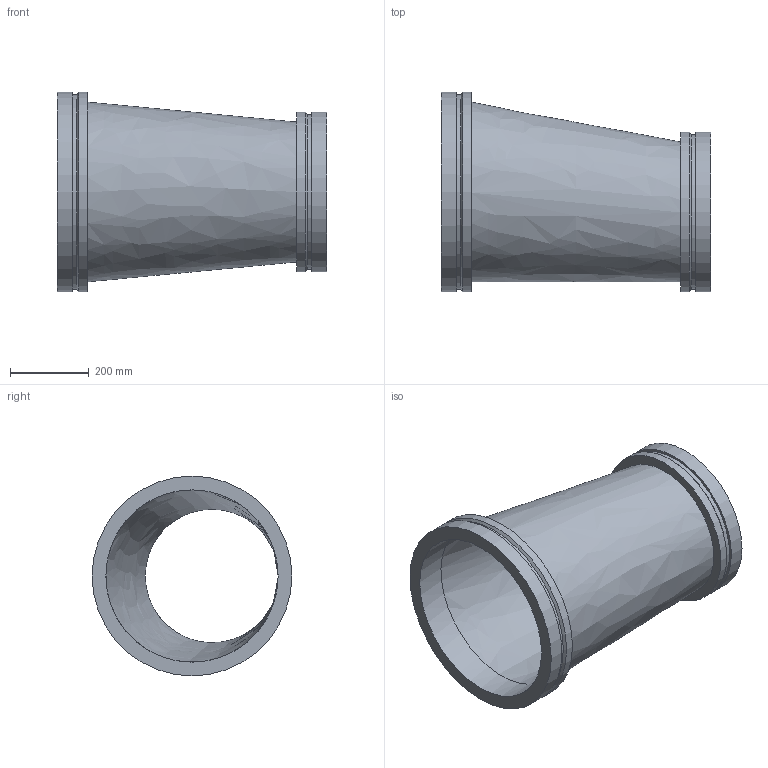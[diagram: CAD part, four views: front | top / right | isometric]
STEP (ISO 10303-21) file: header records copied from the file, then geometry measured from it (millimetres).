
FILE_DESCRIPTION(/* description */ ('VIC REDUCER ECCENTRIC No W51-VR','CAx-IF Rec.Pracs.---Representation and Presentation of Product Manufacturing Information (PMI)---4.0---2014-10-13'),/* implementation_level */ '2;1');
FILE_NAME(/* name */ 'C:\Users\kkamble\AppData\Roaming\Autodesk\ApplicationPlugins\Back Up\Victaulic_Vic-Ring_Reducer Eccentric_No W51 VR (AGR)\Victaulic_Vic-Ring_Reducer Eccentric_No W51 VR (AGR)_18.0x14.0 (450x350).stp',/* time_stamp */ '2020-09-10T11:48:54+05:00',/* author */ ('CONSTRUCTION PIPING SERVICES'),/* organization */ ('Victaulic'),/* preprocessor_version */ 'ST-DEVELOPER v17.2',/* originating_system */ 'Autodesk Inventor 2019',/* authorisation */ '');
FILE_SCHEMA (('AP242_MANAGED_MODEL_BASED_3D_ENGINEERING_MIM_LF { 1 0 10303 442 1 1 4 }'));
Length unit declared in the file: inch
Products named in the file (1): W51 VR-18.0x14.0
Bounding box: 685.8 x 508 x 508 mm (x, y, z)
Volume: 12546353.3 mm3; surface area: 1931826.5 mm2
Topology: 1 solids, 1 shells, 18 faces, 52 edges, 40 vertices
Faces by surface type: cylinder 8, plane 6, cone 2, bspline 2
Full cylindrical faces by diameter (mm): 339.598 x1, 393.7 x1, 406.4 x2, 438.15 x1, 495.3 x1, 508 x2
Entity records: 822 total; most frequent: CARTESIAN_POINT 164, DIRECTION 150, ORIENTED_EDGE 104, AXIS2_PLACEMENT_3D 70, EDGE_CURVE 52, CIRCLE 40, VERTEX_POINT 40, EDGE_LOOP 24
